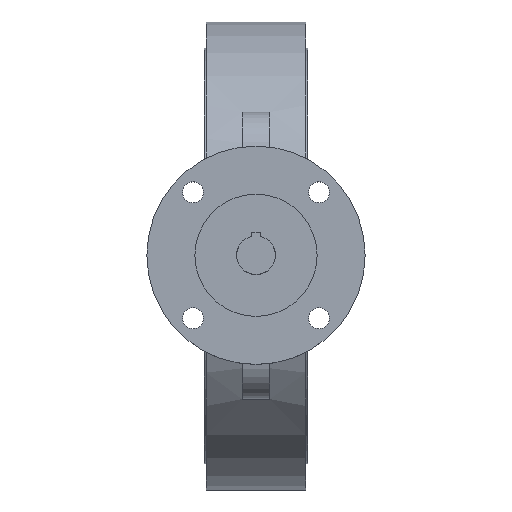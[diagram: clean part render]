
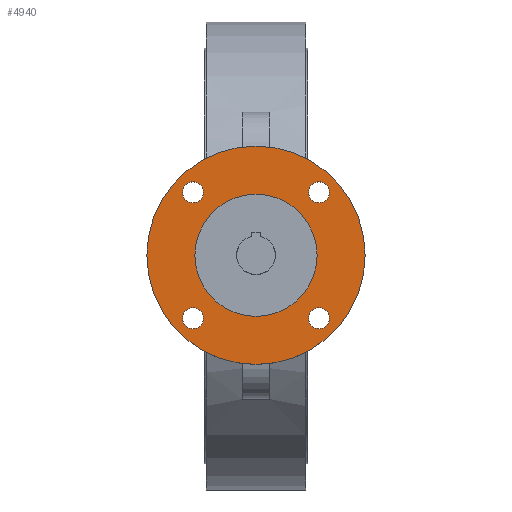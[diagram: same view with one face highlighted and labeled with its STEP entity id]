
A CAD part, top view. The second image highlights one B-rep face of the part: STEP entity #4940.
In plain terms, the highlighted planar face has unit normal (0, 0, 1).
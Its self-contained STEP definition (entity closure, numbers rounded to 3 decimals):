
#4940=ADVANCED_FACE('',(#10612,#10614,#10616,#10618,#10620,#10622),#10624,.T.);
#10612=FACE_BOUND('',#10613,.T.);
#10613=EDGE_LOOP('',(#15307));
#10614=FACE_BOUND('',#10615,.T.);
#10615=EDGE_LOOP('',(#15308));
#10616=FACE_BOUND('',#10617,.T.);
#10617=EDGE_LOOP('',(#15309));
#10618=FACE_BOUND('',#10619,.T.);
#10619=EDGE_LOOP('',(#15310));
#10620=FACE_BOUND('',#10621,.T.);
#10621=EDGE_LOOP('',(#15311));
#10622=FACE_BOUND('',#10623,.T.);
#10623=EDGE_LOOP('',(#15312));
#10624=PLANE('',#10625);
#10625=AXIS2_PLACEMENT_3D('',#10626,#10627,#10628);
#10626=CARTESIAN_POINT('',(0.,0.,235.));
#10627=DIRECTION('',(0.,0.,1.));
#10628=DIRECTION('',(0.,1.,0.));
#15307=ORIENTED_EDGE('',*,*,#17799,.F.);
#15308=ORIENTED_EDGE('',*,*,#17800,.T.);
#15309=ORIENTED_EDGE('',*,*,#17801,.T.);
#15310=ORIENTED_EDGE('',*,*,#17802,.T.);
#15311=ORIENTED_EDGE('',*,*,#17987,.T.);
#15312=ORIENTED_EDGE('',*,*,#17803,.T.);
#17799=EDGE_CURVE('',#20960,#20960,#20961,.T.);
#17800=EDGE_CURVE('',#20962,#20962,#20963,.F.);
#17801=EDGE_CURVE('',#20964,#20964,#20965,.F.);
#17802=EDGE_CURVE('',#20966,#20966,#20967,.F.);
#17803=EDGE_CURVE('',#20968,#20968,#20969,.F.);
#17987=EDGE_CURVE('',#21336,#21336,#21337,.T.);
#20960=VERTEX_POINT('',#28727);
#20961=CIRCLE('',#28728,62.5);
#20962=VERTEX_POINT('',#28732);
#20963=CIRCLE('',#28733,6.);
#20964=VERTEX_POINT('',#28737);
#20965=CIRCLE('',#28738,6.);
#20966=VERTEX_POINT('',#28742);
#20967=CIRCLE('',#28743,6.);
#20968=VERTEX_POINT('',#28747);
#20969=CIRCLE('',#28748,6.);
#21336=VERTEX_POINT('',#29713);
#21337=CIRCLE('',#29714,35.);
#28727=CARTESIAN_POINT('',(0.,62.5,235.));
#28728=AXIS2_PLACEMENT_3D('',#28729,#28730,#28731);
#28729=CARTESIAN_POINT('',(0.,0.,235.));
#28730=DIRECTION('',(0.,0.,-1.));
#28731=DIRECTION('',(0.,1.,0.));
#28732=CARTESIAN_POINT('',(-30.062,-36.062,235.));
#28733=AXIS2_PLACEMENT_3D('',#28734,#28735,#28736);
#28734=CARTESIAN_POINT('',(-36.062,-36.062,235.));
#28735=DIRECTION('',(0.,0.,1.));
#28736=DIRECTION('',(1.,0.,0.));
#28737=CARTESIAN_POINT('',(-36.062,30.062,235.));
#28738=AXIS2_PLACEMENT_3D('',#28739,#28740,#28741);
#28739=CARTESIAN_POINT('',(-36.062,36.062,235.));
#28740=DIRECTION('',(0.,0.,1.));
#28741=DIRECTION('',(0.,-1.,0.));
#28742=CARTESIAN_POINT('',(30.062,36.062,235.));
#28743=AXIS2_PLACEMENT_3D('',#28744,#28745,#28746);
#28744=CARTESIAN_POINT('',(36.062,36.062,235.));
#28745=DIRECTION('',(0.,0.,1.));
#28746=DIRECTION('',(-1.,0.,0.));
#28747=CARTESIAN_POINT('',(36.062,-30.062,235.));
#28748=AXIS2_PLACEMENT_3D('',#28749,#28750,#28751);
#28749=CARTESIAN_POINT('',(36.062,-36.062,235.));
#28750=DIRECTION('',(0.,0.,1.));
#28751=DIRECTION('',(0.,1.,0.));
#29713=CARTESIAN_POINT('',(0.,35.,235.));
#29714=AXIS2_PLACEMENT_3D('',#29715,#29716,#29717);
#29715=CARTESIAN_POINT('',(0.,0.,235.));
#29716=DIRECTION('',(0.,0.,-1.));
#29717=DIRECTION('',(0.,1.,0.));
